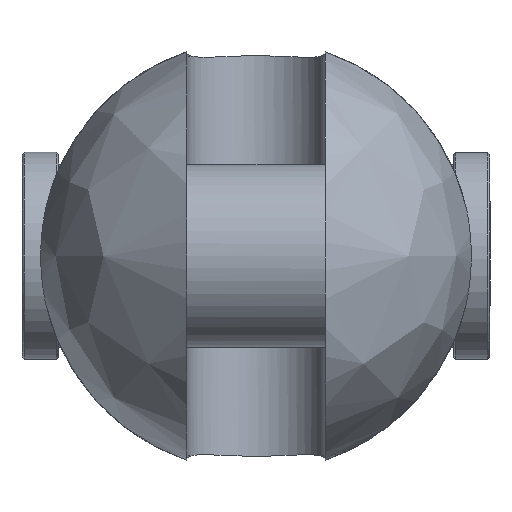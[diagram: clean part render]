
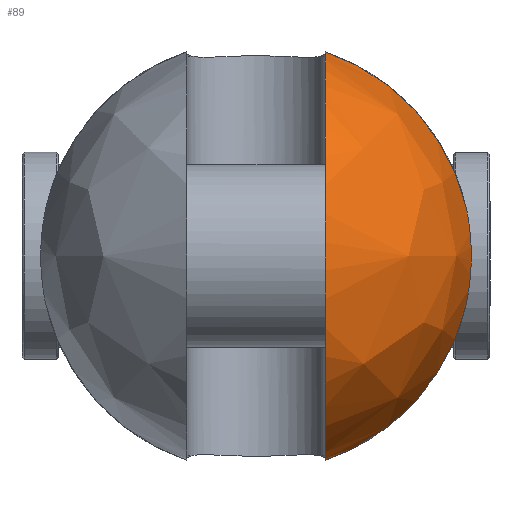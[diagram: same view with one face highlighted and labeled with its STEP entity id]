
A CAD part, left-side view. The second image highlights one B-rep face of the part: STEP entity #89.
In plain terms, the highlighted free-form (B-spline) face has degree [2, 2] with [9, 5] control points.
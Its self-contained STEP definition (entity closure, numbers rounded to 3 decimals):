
#89=ADVANCED_FACE('',(#164),#1306,.T.);
#164=FACE_OUTER_BOUND('',#249,.T.);
#249=EDGE_LOOP('',(#583,#584,#585,#586));
#583=ORIENTED_EDGE('',*,*,#807,.T.);
#584=ORIENTED_EDGE('',*,*,#835,.F.);
#585=ORIENTED_EDGE('',*,*,#847,.T.);
#586=ORIENTED_EDGE('',*,*,#827,.F.);
#807=EDGE_CURVE('',#1192,#1191,#1045,.T.);
#827=EDGE_CURVE('',#1192,#1204,#1055,.T.);
#835=EDGE_CURVE('',#1211,#1191,#1056,.T.);
#847=EDGE_CURVE('',#1211,#1204,#963,.T.);
#963=B_SPLINE_CURVE_WITH_KNOTS('',3,(#3152,#3153,#3154,#3155,#3156,#3157,
#3158,#3159,#3160,#3161,#3162,#3163,#3164,#3165),.UNSPECIFIED.,.F.,.F.,
(4,2,2,2,2,2,4),(0.,1.387,7.119,12.852,18.585,
24.317,25.704),.UNSPECIFIED.);
#1045=(
BOUNDED_CURVE()
B_SPLINE_CURVE(2,(#2896,#2897,#2898,#2899,#2900),.UNSPECIFIED.,.F.,.F.)
B_SPLINE_CURVE_WITH_KNOTS((3,2,3),(-157.707,-78.853,
0.),.UNSPECIFIED.)
CURVE()
GEOMETRIC_REPRESENTATION_ITEM()
RATIONAL_B_SPLINE_CURVE((1.,0.707,1.,0.707,1.))
REPRESENTATION_ITEM('')
);
#1055=(
BOUNDED_CURVE()
B_SPLINE_CURVE(2,(#3022,#3023,#3024),.UNSPECIFIED.,.F.,.F.)
B_SPLINE_CURVE_WITH_KNOTS((3,3),(0.,53.587),.UNSPECIFIED.)
CURVE()
GEOMETRIC_REPRESENTATION_ITEM()
RATIONAL_B_SPLINE_CURVE((1.,0.875,1.))
REPRESENTATION_ITEM('')
);
#1056=(
BOUNDED_CURVE()
B_SPLINE_CURVE(2,(#3079,#3080,#3081),.UNSPECIFIED.,.F.,.F.)
B_SPLINE_CURVE_WITH_KNOTS((3,3),(0.,53.587),.UNSPECIFIED.)
CURVE()
GEOMETRIC_REPRESENTATION_ITEM()
RATIONAL_B_SPLINE_CURVE((1.,0.875,1.))
REPRESENTATION_ITEM('')
);
#1191=VERTEX_POINT('',#2837);
#1192=VERTEX_POINT('',#2838);
#1204=VERTEX_POINT('',#2850);
#1211=VERTEX_POINT('',#2857);
#1306=(
BOUNDED_SURFACE()
B_SPLINE_SURFACE(2,2,((#2445,#2446,#2447,#2448,#2449),(#2450,#2451,#2452,
#2453,#2454),(#2455,#2456,#2457,#2458,#2459),(#2460,#2461,#2462,#2463,#2464),
(#2465,#2466,#2467,#2468,#2469),(#2470,#2471,#2472,#2473,#2474),(#2475,
#2476,#2477,#2478,#2479),(#2480,#2481,#2482,#2483,#2484),(#2485,#2486,#2487,
#2488,#2489)),.UNSPECIFIED.,.T.,.F.,.F.)
B_SPLINE_SURFACE_WITH_KNOTS((3,2,2,2,3),(3,2,3),(0.,83.252,166.504,
249.757,333.009),(0.,83.252,166.504),
 .UNSPECIFIED.)
GEOMETRIC_REPRESENTATION_ITEM()
RATIONAL_B_SPLINE_SURFACE(((1.,0.707,1.,0.707,1.),
(0.707,0.5,0.707,0.5,0.707),(1.,0.707,
1.,0.707,1.),(0.707,0.5,0.707,0.5,0.707),
(1.,0.707,1.,0.707,1.),(0.707,0.5,0.707,
0.5,0.707),(1.,0.707,1.,0.707,1.),(0.707,
0.5,0.707,0.5,0.707),(1.,0.707,1.,0.707,
1.)))
REPRESENTATION_ITEM('')
SURFACE()
);
#2445=CARTESIAN_POINT('',(-76.5,0.,0.));
#2446=CARTESIAN_POINT('',(-76.5,53.,0.));
#2447=CARTESIAN_POINT('',(-23.5,53.,0.));
#2448=CARTESIAN_POINT('',(29.5,53.,0.));
#2449=CARTESIAN_POINT('',(29.5,0.,0.));
#2450=CARTESIAN_POINT('',(-76.5,0.,0.));
#2451=CARTESIAN_POINT('',(-76.5,53.,53.));
#2452=CARTESIAN_POINT('',(-23.5,53.,53.));
#2453=CARTESIAN_POINT('',(29.5,53.,53.));
#2454=CARTESIAN_POINT('',(29.5,0.,0.));
#2455=CARTESIAN_POINT('',(-76.5,0.,0.));
#2456=CARTESIAN_POINT('',(-76.5,0.,53.));
#2457=CARTESIAN_POINT('',(-23.5,0.,53.));
#2458=CARTESIAN_POINT('',(29.5,0.,53.));
#2459=CARTESIAN_POINT('',(29.5,0.,0.));
#2460=CARTESIAN_POINT('',(-76.5,0.,0.));
#2461=CARTESIAN_POINT('',(-76.5,-53.,53.));
#2462=CARTESIAN_POINT('',(-23.5,-53.,53.));
#2463=CARTESIAN_POINT('',(29.5,-53.,53.));
#2464=CARTESIAN_POINT('',(29.5,0.,0.));
#2465=CARTESIAN_POINT('',(-76.5,0.,0.));
#2466=CARTESIAN_POINT('',(-76.5,-53.,0.));
#2467=CARTESIAN_POINT('',(-23.5,-53.,0.));
#2468=CARTESIAN_POINT('',(29.5,-53.,0.));
#2469=CARTESIAN_POINT('',(29.5,0.,0.));
#2470=CARTESIAN_POINT('',(-76.5,0.,0.));
#2471=CARTESIAN_POINT('',(-76.5,-53.,-53.));
#2472=CARTESIAN_POINT('',(-23.5,-53.,-53.));
#2473=CARTESIAN_POINT('',(29.5,-53.,-53.));
#2474=CARTESIAN_POINT('',(29.5,0.,0.));
#2475=CARTESIAN_POINT('',(-76.5,0.,0.));
#2476=CARTESIAN_POINT('',(-76.5,0.,-53.));
#2477=CARTESIAN_POINT('',(-23.5,0.,-53.));
#2478=CARTESIAN_POINT('',(29.5,0.,-53.));
#2479=CARTESIAN_POINT('',(29.5,0.,0.));
#2480=CARTESIAN_POINT('',(-76.5,0.,0.));
#2481=CARTESIAN_POINT('',(-76.5,53.,-53.));
#2482=CARTESIAN_POINT('',(-23.5,53.,-53.));
#2483=CARTESIAN_POINT('',(29.5,53.,-53.));
#2484=CARTESIAN_POINT('',(29.5,0.,0.));
#2485=CARTESIAN_POINT('',(-76.5,0.,0.));
#2486=CARTESIAN_POINT('',(-76.5,53.,0.));
#2487=CARTESIAN_POINT('',(-23.5,53.,0.));
#2488=CARTESIAN_POINT('',(29.5,53.,0.));
#2489=CARTESIAN_POINT('',(29.5,0.,0.));
#2837=CARTESIAN_POINT('',(-23.5,-17.,-50.2));
#2838=CARTESIAN_POINT('',(-23.5,-17.,50.2));
#2850=CARTESIAN_POINT('',(-23.5,-51.565,12.247));
#2857=CARTESIAN_POINT('',(-23.5,-51.565,-12.247));
#2896=CARTESIAN_POINT('',(-23.5,-17.,50.2));
#2897=CARTESIAN_POINT('',(-73.7,-17.,50.2));
#2898=CARTESIAN_POINT('',(-73.7,-17.,0.));
#2899=CARTESIAN_POINT('',(-73.7,-17.,-50.2));
#2900=CARTESIAN_POINT('',(-23.5,-17.,-50.2));
#3022=CARTESIAN_POINT('',(-23.5,-17.,50.2));
#3023=CARTESIAN_POINT('',(-23.5,-44.786,40.79));
#3024=CARTESIAN_POINT('',(-23.5,-51.565,12.247));
#3079=CARTESIAN_POINT('',(-23.5,-51.565,-12.247));
#3080=CARTESIAN_POINT('',(-23.5,-44.786,-40.79));
#3081=CARTESIAN_POINT('',(-23.5,-17.,-50.2));
#3152=CARTESIAN_POINT('',(-23.5,-51.565,-12.247));
#3153=CARTESIAN_POINT('',(-23.712,-51.662,-11.841));
#3154=CARTESIAN_POINT('',(-23.913,-51.754,-11.428));
#3155=CARTESIAN_POINT('',(-24.895,-52.198,-9.281));
#3156=CARTESIAN_POINT('',(-25.502,-52.47,-7.451));
#3157=CARTESIAN_POINT('',(-26.305,-52.829,-3.732));
#3158=CARTESIAN_POINT('',(-26.5,-52.915,-1.842));
#3159=CARTESIAN_POINT('',(-26.5,-52.915,1.842));
#3160=CARTESIAN_POINT('',(-26.305,-52.829,3.732));
#3161=CARTESIAN_POINT('',(-25.502,-52.47,7.451));
#3162=CARTESIAN_POINT('',(-24.895,-52.198,9.281));
#3163=CARTESIAN_POINT('',(-23.913,-51.754,11.428));
#3164=CARTESIAN_POINT('',(-23.712,-51.662,11.841));
#3165=CARTESIAN_POINT('',(-23.5,-51.565,12.247));
